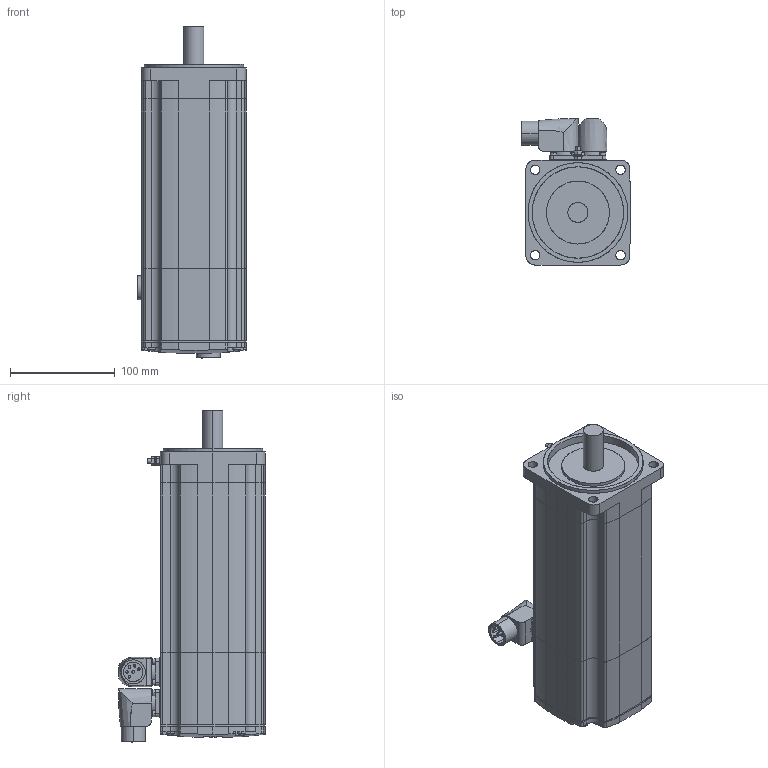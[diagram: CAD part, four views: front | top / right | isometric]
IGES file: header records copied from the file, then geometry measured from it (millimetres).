
Start section: SolidWorks IGES file using analytic representation for surfaces
Global section: file name: C:\PDM\SW-SAP\AA-IGES\SH31003x0xF2100.IGS; native system: SolidWorks 2010; preprocessor: SolidWorks 2010; author: SESA21951; date: 131129.101032; units: millimetre
Bounding box: 103.65 x 139.9 x 316.25 mm (x, y, z)
Surface area: 212300.4 mm2 (no closed solid volume)
Topology: 0 solids, 0 shells, 489 faces, 7098 edges, 7098 vertices
Faces by surface type: revolution 257, bspline 232
